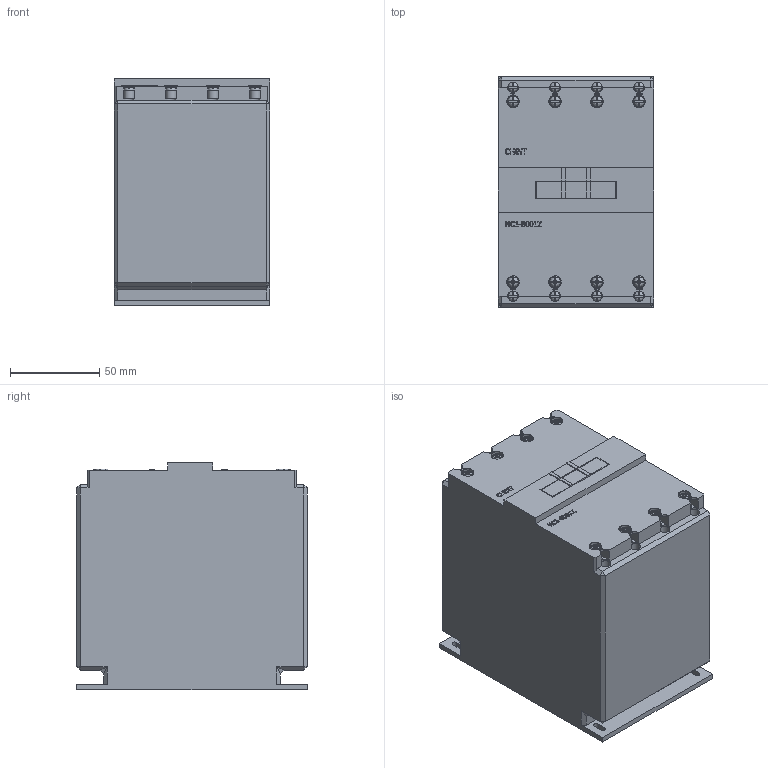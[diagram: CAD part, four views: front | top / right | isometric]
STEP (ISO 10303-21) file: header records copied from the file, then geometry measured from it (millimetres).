
FILE_DESCRIPTION(/* description */ (''),/* implementation_level */ '2;1');
FILE_NAME(/* name */ 'D:\CHINT2\NC1\NC1-8001Z 230В 50.stp',/* time_stamp */ '2017-11-12T20:30:08+03:00',/* author */ ('RSagdiev'),/* organization */ (''),/* preprocessor_version */ 'ST-DEVELOPER v16.5',/* originating_system */ 'Autodesk Inventor 2017',/* authorisation */ '');
FILE_SCHEMA (('AUTOMOTIVE_DESIGN { 1 0 10303 214 3 1 1 }'));
Length unit declared in the file: millimetre
Products named in the file (1): NC1-8001 230В 50
Bounding box: 87 x 129 x 127.5 mm (x, y, z)
Volume: 1353801.5 mm3; surface area: 87183.3 mm2
Topology: 22 solids, 22 shells, 1496 faces, 4018 edges, 2648 vertices
Faces by surface type: plane 1037, bspline 403, cylinder 48, torus 8
Full cylindrical faces by diameter (mm): 5.8 x8, 6 x16
Entity records: 50350 total; most frequent: CARTESIAN_POINT 15609, ORIENTED_EDGE 7958, DIRECTION 5599, EDGE_CURVE 3979, LINE 2735, VECTOR 2735, VERTEX_POINT 2641, EDGE_LOOP 1634
